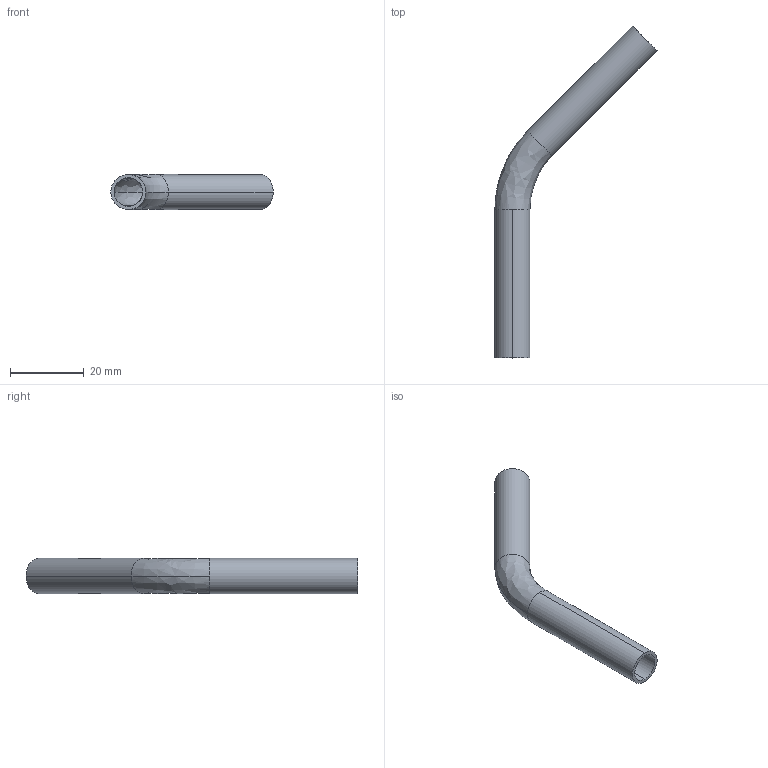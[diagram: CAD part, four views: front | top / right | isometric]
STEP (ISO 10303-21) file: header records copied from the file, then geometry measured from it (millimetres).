
FILE_DESCRIPTION (( 'STEP AP214' ), '1' );
FILE_NAME ('TE2KS6L.375-...STEP', '2016-05-22T06:45:58', ( 'eran' ), ( '' ), 'SwSTEP 2.0', 'SolidWorks 2016', '' );
FILE_SCHEMA (( 'AUTOMOTIVE_DESIGN' ));
Length unit declared in the file: millimetre
Products named in the file (1): TE2KS6L.375-..
Bounding box: 44.06 x 90.09 x 9.53 mm (x, y, z)
Volume: 2428 mm3; surface area: 5504.5 mm2
Topology: 1 solids, 1 shells, 14 faces, 32 edges, 20 vertices
Faces by surface type: cylinder 8, bspline 4, plane 2
Entity records: 490 total; most frequent: CARTESIAN_POINT 127, DIRECTION 78, ORIENTED_EDGE 64, AXIS2_PLACEMENT_3D 35, EDGE_CURVE 32, CIRCLE 24, VERTEX_POINT 20, EDGE_LOOP 16
